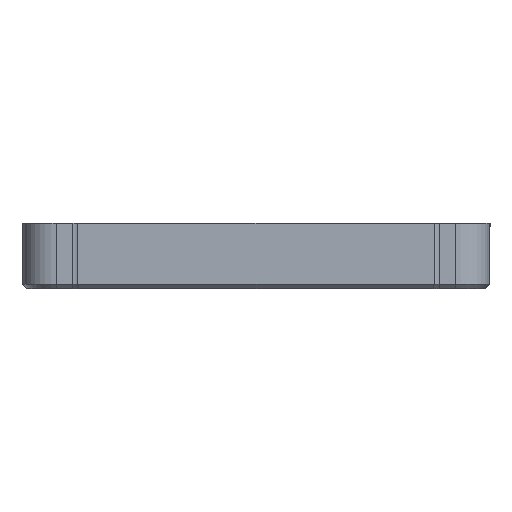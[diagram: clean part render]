
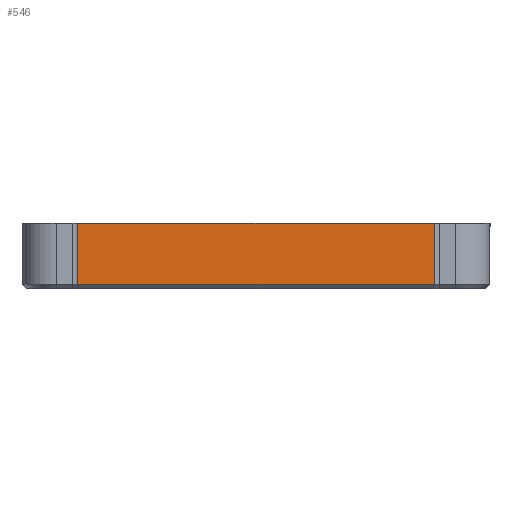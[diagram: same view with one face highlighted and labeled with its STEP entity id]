
A CAD part, front view. The second image highlights one B-rep face of the part: STEP entity #546.
In plain terms, the highlighted planar face has unit normal (0, -1, 0).
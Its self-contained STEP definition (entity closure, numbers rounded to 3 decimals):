
#2 = DIRECTION ( 'NONE',  ( 0., 1., 0. ) ) ;
#64 = VECTOR ( 'NONE', #143, 1000. ) ;
#106 = EDGE_LOOP ( 'NONE', ( #1536, #252, #640, #191 ) ) ;
#140 = CARTESIAN_POINT ( 'NONE',  ( 42.502, -165., 7. ) ) ;
#143 = DIRECTION ( 'NONE',  ( 1., 0., 0. ) ) ;
#161 = VERTEX_POINT ( 'NONE', #338 ) ;
#171 = DIRECTION ( 'NONE',  ( -1., 0., 0. ) ) ;
#181 = LINE ( 'NONE', #781, #1128 ) ;
#191 = ORIENTED_EDGE ( 'NONE', *, *, #1727, .T. ) ;
#252 = ORIENTED_EDGE ( 'NONE', *, *, #1176, .T. ) ;
#334 = DIRECTION ( 'NONE',  ( 0., 0., 1. ) ) ;
#338 = CARTESIAN_POINT ( 'NONE',  ( 87.502, -165., 2. ) ) ;
#378 = CARTESIAN_POINT ( 'NONE',  ( 87.502, -165., 7. ) ) ;
#392 = CARTESIAN_POINT ( 'NONE',  ( -87.502, -165., 2. ) ) ;
#471 = VERTEX_POINT ( 'NONE', #1909 ) ;
#546 = ADVANCED_FACE ( 'NONE', ( #727 ), #1482, .F. ) ;
#632 = EDGE_CURVE ( 'NONE', #1443, #471, #1834, .T. ) ;
#640 = ORIENTED_EDGE ( 'NONE', *, *, #1389, .T. ) ;
#705 = DIRECTION ( 'NONE',  ( 0., 0., 1. ) ) ;
#716 = VECTOR ( 'NONE', #334, 1000. ) ;
#727 = FACE_OUTER_BOUND ( 'NONE', #106, .T. ) ;
#781 = CARTESIAN_POINT ( 'NONE',  ( 53., -165., 32. ) ) ;
#1004 = VERTEX_POINT ( 'NONE', #1290 ) ;
#1050 = DIRECTION ( 'NONE',  ( -1., 0., 0. ) ) ;
#1053 = LINE ( 'NONE', #1654, #64 ) ;
#1124 = LINE ( 'NONE', #378, #1126 ) ;
#1126 = VECTOR ( 'NONE', #705, 1000. ) ;
#1128 = VECTOR ( 'NONE', #171, 1000. ) ;
#1176 = EDGE_CURVE ( 'NONE', #1443, #161, #1053, .T. ) ;
#1290 = CARTESIAN_POINT ( 'NONE',  ( 87.502, -165., 32. ) ) ;
#1389 = EDGE_CURVE ( 'NONE', #161, #1004, #1124, .T. ) ;
#1443 = VERTEX_POINT ( 'NONE', #392 ) ;
#1482 = PLANE ( 'NONE',  #1593 ) ;
#1536 = ORIENTED_EDGE ( 'NONE', *, *, #632, .F. ) ;
#1593 = AXIS2_PLACEMENT_3D ( 'NONE', #140, #2, #1050 ) ;
#1654 = CARTESIAN_POINT ( 'NONE',  ( 42.502, -165., 2. ) ) ;
#1693 = CARTESIAN_POINT ( 'NONE',  ( -87.502, -165., 7. ) ) ;
#1727 = EDGE_CURVE ( 'NONE', #1004, #471, #181, .T. ) ;
#1834 = LINE ( 'NONE', #1693, #716 ) ;
#1909 = CARTESIAN_POINT ( 'NONE',  ( -87.502, -165., 32. ) ) ;
